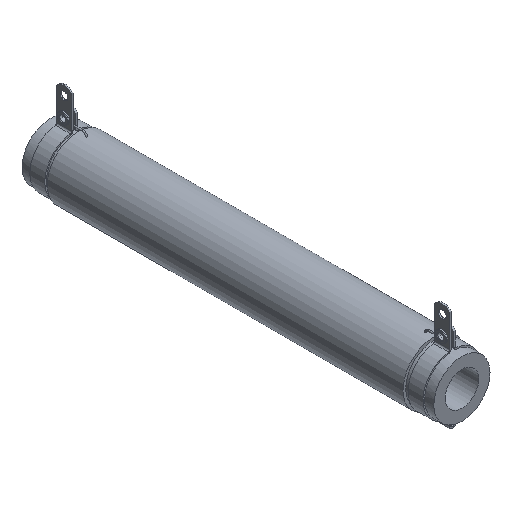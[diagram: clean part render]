
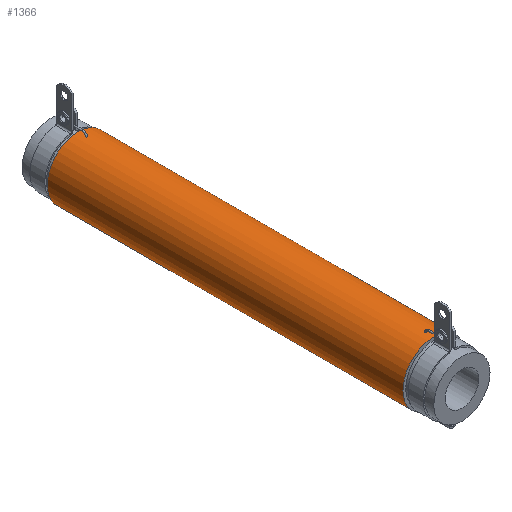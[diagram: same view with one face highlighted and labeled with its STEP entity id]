
A CAD part, isometric view. The second image highlights one B-rep face of the part: STEP entity #1366.
In plain terms, the highlighted cylindrical face has radius 16.5 mm (diameter 33 mm), a full revolution.
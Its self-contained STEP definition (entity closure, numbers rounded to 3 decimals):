
#147=B_SPLINE_CURVE_WITH_KNOTS($,3,(#2087,#2088,#2089,#2090,#2091,#2092,
#2093,#2094,#2095,#2096,#2097,#2098,#2099,#2100,#2101,#2102,#2103,#2104,
#2105,#2106,#2107,#2108,#2109,#2110,#2111,#2112,#2113,#2114,#2115,#2116,
#2117,#2118,#2119,#2120,#2121,#2122),.UNSPECIFIED.,.T.,.F.,(4,2,2,2,2,2,
2,2,2,2,2,2,2,2,2,2,2,4),(0.,0.016,0.031,0.047,
0.063,0.079,0.095,0.11,
0.126,0.141,0.157,0.172,
0.189,0.204,0.22,0.236,
0.245,0.254),.UNSPECIFIED.);
#148=B_SPLINE_CURVE_WITH_KNOTS($,3,(#2124,#2125,#2126,#2127,#2128,#2129,
#2130,#2131,#2132,#2133,#2134,#2135,#2136,#2137,#2138,#2139,#2140,#2141,
#2142,#2143,#2144,#2145,#2146,#2147,#2148,#2149,#2150,#2151,#2152,#2153,
#2154,#2155,#2156,#2157,#2158,#2159),.UNSPECIFIED.,.T.,.F.,(4,2,2,2,2,2,
2,2,2,2,2,2,2,2,2,2,2,4),(0.,0.016,0.031,0.047,
0.063,0.079,0.095,0.11,
0.126,0.141,0.157,0.172,
0.189,0.204,0.22,0.236,
0.245,0.254),.UNSPECIFIED.);
#177=FACE_BOUND($,#372,.T.);
#178=FACE_BOUND($,#373,.T.);
#179=FACE_BOUND($,#374,.T.);
#180=FACE_BOUND($,#375,.T.);
#251=CYLINDRICAL_SURFACE($,#1468,16.5);
#372=EDGE_LOOP($,(#918));
#373=EDGE_LOOP($,(#919));
#374=EDGE_LOOP($,(#920));
#375=EDGE_LOOP($,(#921));
#511=CIRCLE($,#1469,16.5);
#512=CIRCLE($,#1470,16.5);
#604=VERTEX_POINT($,#2086);
#605=VERTEX_POINT($,#2123);
#606=VERTEX_POINT($,#2160);
#607=VERTEX_POINT($,#2162);
#736=EDGE_CURVE($,#604,#604,#147,.T.);
#737=EDGE_CURVE($,#605,#605,#148,.T.);
#738=EDGE_CURVE($,#606,#606,#511,.T.);
#739=EDGE_CURVE($,#607,#607,#512,.T.);
#918=ORIENTED_EDGE($,*,*,#736,.T.);
#919=ORIENTED_EDGE($,*,*,#737,.T.);
#920=ORIENTED_EDGE($,*,*,#738,.T.);
#921=ORIENTED_EDGE($,*,*,#739,.F.);
#1366=ADVANCED_FACE($,(#177,#178,#179,#180),#251,.T.);
#1468=AXIS2_PLACEMENT_3D($,#2085,#1662,#1663);
#1469=AXIS2_PLACEMENT_3D($,#2161,#1664,#1665);
#1470=AXIS2_PLACEMENT_3D($,#2163,#1666,#1667);
#1662=DIRECTION('center_axis',(0.,1.,0.));
#1663=DIRECTION('ref_axis',(0.757,0.,0.653));
#1664=DIRECTION('center_axis',(0.,-1.,0.));
#1665=DIRECTION('ref_axis',(0.757,0.,0.653));
#1666=DIRECTION('center_axis',(0.,-1.,0.));
#1667=DIRECTION('ref_axis',(0.757,0.,0.653));
#2085=CARTESIAN_POINT('Origin',(21.645,61.577,19.693));
#2086=CARTESIAN_POINT('',(21.645,66.458,36.193));
#2087=CARTESIAN_POINT('Ctrl Pts',(21.645,66.458,36.193));
#2088=CARTESIAN_POINT('Ctrl Pts',(21.697,66.458,36.193));
#2089=CARTESIAN_POINT('Ctrl Pts',(21.748,66.448,36.192));
#2090=CARTESIAN_POINT('Ctrl Pts',(21.844,66.409,36.192));
#2091=CARTESIAN_POINT('Ctrl Pts',(21.888,66.38,36.191));
#2092=CARTESIAN_POINT('Ctrl Pts',(21.962,66.307,36.19));
#2093=CARTESIAN_POINT('Ctrl Pts',(21.992,66.263,36.189));
#2094=CARTESIAN_POINT('Ctrl Pts',(22.033,66.167,36.188));
#2095=CARTESIAN_POINT('Ctrl Pts',(22.044,66.115,36.188));
#2096=CARTESIAN_POINT('Ctrl Pts',(22.046,66.009,36.188));
#2097=CARTESIAN_POINT('Ctrl Pts',(22.036,65.956,36.188));
#2098=CARTESIAN_POINT('Ctrl Pts',(21.998,65.856,36.189));
#2099=CARTESIAN_POINT('Ctrl Pts',(21.969,65.811,36.19));
#2100=CARTESIAN_POINT('Ctrl Pts',(21.895,65.734,36.191));
#2101=CARTESIAN_POINT('Ctrl Pts',(21.852,65.704,36.191));
#2102=CARTESIAN_POINT('Ctrl Pts',(21.757,65.661,36.192));
#2103=CARTESIAN_POINT('Ctrl Pts',(21.706,65.65,36.193));
#2104=CARTESIAN_POINT('Ctrl Pts',(21.603,65.648,36.193));
#2105=CARTESIAN_POINT('Ctrl Pts',(21.553,65.657,36.192));
#2106=CARTESIAN_POINT('Ctrl Pts',(21.457,65.693,36.192));
#2107=CARTESIAN_POINT('Ctrl Pts',(21.413,65.721,36.191));
#2108=CARTESIAN_POINT('Ctrl Pts',(21.336,65.792,36.19));
#2109=CARTESIAN_POINT('Ctrl Pts',(21.305,65.835,36.189));
#2110=CARTESIAN_POINT('Ctrl Pts',(21.261,65.932,36.188));
#2111=CARTESIAN_POINT('Ctrl Pts',(21.248,65.984,36.188));
#2112=CARTESIAN_POINT('Ctrl Pts',(21.243,66.091,36.188));
#2113=CARTESIAN_POINT('Ctrl Pts',(21.251,66.144,36.188));
#2114=CARTESIAN_POINT('Ctrl Pts',(21.287,66.243,36.189));
#2115=CARTESIAN_POINT('Ctrl Pts',(21.315,66.289,36.189));
#2116=CARTESIAN_POINT('Ctrl Pts',(21.385,66.366,36.191));
#2117=CARTESIAN_POINT('Ctrl Pts',(21.428,66.398,36.191));
#2118=CARTESIAN_POINT('Ctrl Pts',(21.501,66.433,36.192));
#2119=CARTESIAN_POINT('Ctrl Pts',(21.529,66.442,36.192));
#2120=CARTESIAN_POINT('Ctrl Pts',(21.587,66.455,36.193));
#2121=CARTESIAN_POINT('Ctrl Pts',(21.616,66.458,36.193));
#2122=CARTESIAN_POINT('Ctrl Pts',(21.645,66.458,36.193));
#2123=CARTESIAN_POINT('',(21.645,246.696,36.193));
#2124=CARTESIAN_POINT('Ctrl Pts',(21.645,246.696,36.193));
#2125=CARTESIAN_POINT('Ctrl Pts',(21.593,246.696,36.193));
#2126=CARTESIAN_POINT('Ctrl Pts',(21.542,246.706,36.192));
#2127=CARTESIAN_POINT('Ctrl Pts',(21.446,246.746,36.192));
#2128=CARTESIAN_POINT('Ctrl Pts',(21.402,246.774,36.191));
#2129=CARTESIAN_POINT('Ctrl Pts',(21.328,246.848,36.19));
#2130=CARTESIAN_POINT('Ctrl Pts',(21.298,246.891,36.189));
#2131=CARTESIAN_POINT('Ctrl Pts',(21.257,246.988,36.188));
#2132=CARTESIAN_POINT('Ctrl Pts',(21.246,247.04,36.188));
#2133=CARTESIAN_POINT('Ctrl Pts',(21.244,247.146,36.188));
#2134=CARTESIAN_POINT('Ctrl Pts',(21.254,247.199,36.188));
#2135=CARTESIAN_POINT('Ctrl Pts',(21.293,247.298,36.189));
#2136=CARTESIAN_POINT('Ctrl Pts',(21.322,247.344,36.19));
#2137=CARTESIAN_POINT('Ctrl Pts',(21.395,247.42,36.191));
#2138=CARTESIAN_POINT('Ctrl Pts',(21.439,247.451,36.191));
#2139=CARTESIAN_POINT('Ctrl Pts',(21.534,247.493,36.192));
#2140=CARTESIAN_POINT('Ctrl Pts',(21.585,247.504,36.193));
#2141=CARTESIAN_POINT('Ctrl Pts',(21.687,247.507,36.193));
#2142=CARTESIAN_POINT('Ctrl Pts',(21.738,247.498,36.192));
#2143=CARTESIAN_POINT('Ctrl Pts',(21.834,247.461,36.192));
#2144=CARTESIAN_POINT('Ctrl Pts',(21.878,247.434,36.191));
#2145=CARTESIAN_POINT('Ctrl Pts',(21.954,247.362,36.19));
#2146=CARTESIAN_POINT('Ctrl Pts',(21.985,247.319,36.189));
#2147=CARTESIAN_POINT('Ctrl Pts',(22.03,247.223,36.188));
#2148=CARTESIAN_POINT('Ctrl Pts',(22.043,247.17,36.188));
#2149=CARTESIAN_POINT('Ctrl Pts',(22.047,247.064,36.188));
#2150=CARTESIAN_POINT('Ctrl Pts',(22.039,247.011,36.188));
#2151=CARTESIAN_POINT('Ctrl Pts',(22.003,246.911,36.189));
#2152=CARTESIAN_POINT('Ctrl Pts',(21.976,246.866,36.189));
#2153=CARTESIAN_POINT('Ctrl Pts',(21.905,246.788,36.191));
#2154=CARTESIAN_POINT('Ctrl Pts',(21.863,246.757,36.191));
#2155=CARTESIAN_POINT('Ctrl Pts',(21.789,246.722,36.192));
#2156=CARTESIAN_POINT('Ctrl Pts',(21.761,246.712,36.192));
#2157=CARTESIAN_POINT('Ctrl Pts',(21.704,246.699,36.193));
#2158=CARTESIAN_POINT('Ctrl Pts',(21.675,246.696,36.193));
#2159=CARTESIAN_POINT('Ctrl Pts',(21.645,246.696,36.193));
#2160=CARTESIAN_POINT('',(9.155,251.577,8.911));
#2161=CARTESIAN_POINT('Origin',(21.645,251.577,19.693));
#2162=CARTESIAN_POINT('',(9.155,61.577,8.911));
#2163=CARTESIAN_POINT('Origin',(21.645,61.577,19.693));
